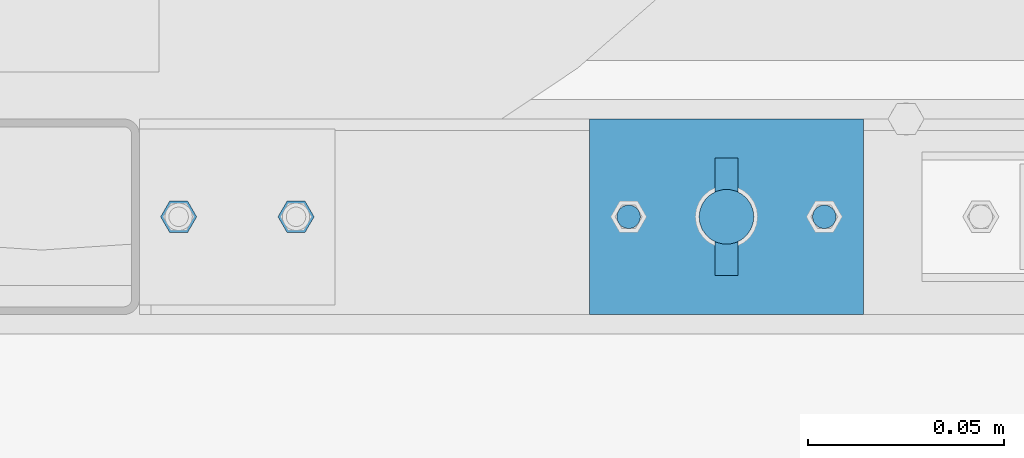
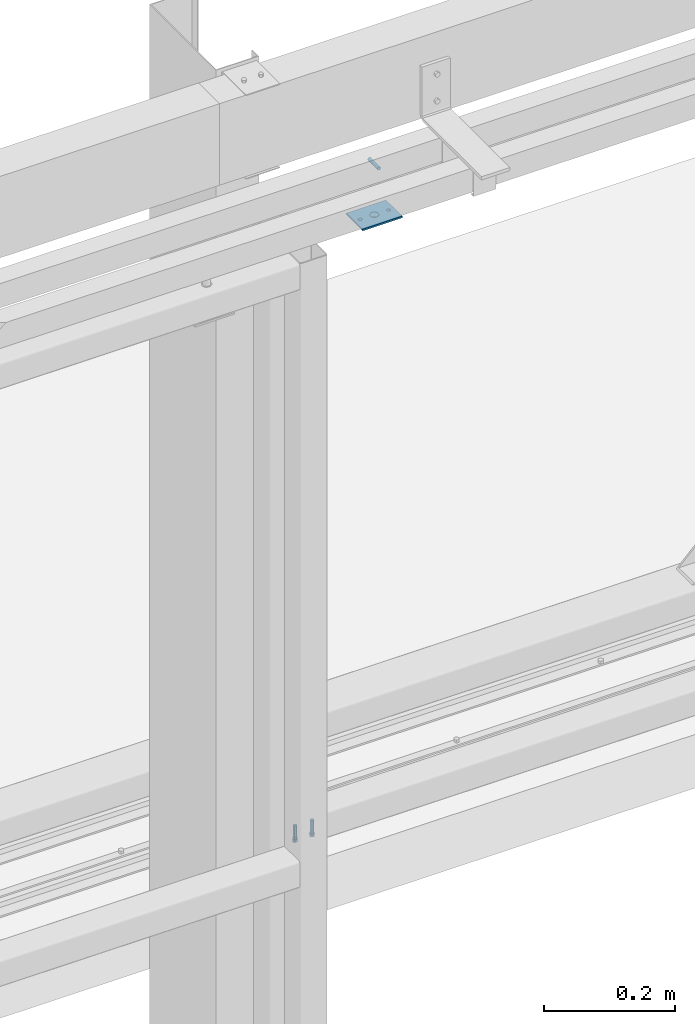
# One storey, part 46 of 91: 4 mechanical fasteners, 2 discrete accessories, 2 elements without a shape of their own.
"""IFC2X3 building model written with IfcOpenShell, lengths in millimetres."""

import ifcopenshell
import ifcopenshell.guid

model = None  # the IFC model being written
_history = None  # IfcOwnerHistory: only IFC2X3 demands one
_inside = {}  # id of a spatial element -> (the spatial element, [elements in it])
_under = {}  # id of a project, library or spatial element -> (it, [spatial elements below it])
_declared = {}  # id of a project -> (the project, [libraries it declares])
_typed = {}  # id of a type object -> (the type object, [elements of that type])
_made_of = {}  # id of a material, layer set ... -> (it, [elements and type objects made of it])


def new_model(schema):
    """Start an empty IFC model of exactly this schema.

    Asked for "IFC4X3", IfcOpenShell would pick the latest addendum, in which some entities
    have other attributes; the version numbers below select the first issue.
    IFC2X3 requires an IfcOwnerHistory on every rooted entity: one is made here for all.
    """
    global model, _history
    if schema == "IFC4X3":
        model = ifcopenshell.file(schema_version=(4, 3, 0, 0))
    else:
        model = ifcopenshell.file(schema=schema)
    _inside.clear()
    _under.clear()
    _declared.clear()
    _typed.clear()
    _made_of.clear()
    _history = None
    if model.schema == "IFC2X3":
        org = make("IfcOrganization", Name="unknown")
        user = make(
            "IfcPersonAndOrganization",
            ThePerson=make("IfcPerson", FamilyName="unknown"),
            TheOrganization=org,
        )
        app = make(
            "IfcApplication",
            ApplicationDeveloper=org,
            Version="unknown",
            ApplicationFullName="unknown",
            ApplicationIdentifier="unknown",
        )
        _history = make(
            "IfcOwnerHistory",
            OwningUser=user,
            OwningApplication=app,
            ChangeAction="ADDED",
            CreationDate=0,
        )
    return model


def make(cls, **values):
    """One entity of the class cls with the attributes given. An attribute that is None is left unset."""
    return model.create_entity(
        cls, **{name: value for name, value in values.items() if value is not None}
    )


def rooted(cls, **values):
    """An entity with a GlobalId (a new one), such as an element, a storey or a relation."""
    return make(cls, GlobalId=ifcopenshell.guid.new(), OwnerHistory=_history, **values)


def si_unit(unit_type, name, prefix=None):
    """IfcSIUnit, for example si_unit("LENGTHUNIT", "METRE", prefix="MILLI")."""
    return make("IfcSIUnit", UnitType=unit_type, Prefix=prefix, Name=name)


def assignment(units):
    """IfcUnitAssignment: the units of a project."""
    return None if units is None else make("IfcUnitAssignment", Units=units)


def point(xyz):
    """IfcCartesianPoint."""
    return None if xyz is None else make("IfcCartesianPoint", Coordinates=xyz)


def direction(xyz):
    """IfcDirection."""
    return None if xyz is None else make("IfcDirection", DirectionRatios=xyz)


def frame(location, z_axis=None, x_axis=None):
    """IfcAxis2Placement3D, a coordinate frame: its origin and axes. An axis left out is left unset."""
    return make(
        "IfcAxis2Placement3D",
        Location=point(location),
        Axis=direction(z_axis),
        RefDirection=direction(x_axis),
    )


def frame_2d(location, x_axis=None):
    """IfcAxis2Placement2D, a coordinate frame in the plane: its origin and x axis."""
    return make(
        "IfcAxis2Placement2D", Location=point(location), RefDirection=direction(x_axis)
    )


def origin_with_axes():
    """The frame at (0, 0, 0) with the z axis (0, 0, 1) and the x axis (1, 0, 0) written out."""
    return frame((0.0, 0.0, 0.0), z_axis=(0.0, 0.0, 1.0), x_axis=(1.0, 0.0, 0.0))


def origin_2d_with_axis():
    """The frame at (0, 0) in the plane with the x axis (1, 0) written out."""
    return frame_2d((0.0, 0.0), x_axis=(1.0, 0.0))


def place(relative_to, where):
    """IfcLocalPlacement: puts the frame where relative to a parent placement (None: the world)."""
    return make(
        "IfcLocalPlacement", PlacementRelTo=relative_to, RelativePlacement=where
    )


def context(
    kind, dimensions, precision=None, world=None, true_north=None, identifier=None
):
    """IfcGeometricRepresentationContext, for example the 3D "Model" context."""
    return make(
        "IfcGeometricRepresentationContext",
        ContextIdentifier=identifier,
        ContextType=kind,
        CoordinateSpaceDimension=dimensions,
        Precision=precision,
        WorldCoordinateSystem=world,
        TrueNorth=true_north,
    )


def subcontext(parent, identifier, kind, view, scale=None):
    """IfcGeometricRepresentationSubContext, for example "Body" below "Model"."""
    return make(
        "IfcGeometricRepresentationSubContext",
        ContextIdentifier=identifier,
        ContextType=kind,
        ParentContext=parent,
        TargetScale=scale,
        TargetView=view,
    )


def project(units=None, contexts=None):
    """IfcProject with its units and contexts."""
    return rooted(
        "IfcProject",
        Name="project",
        RepresentationContexts=contexts,
        UnitsInContext=assignment(units),
    )


def spatial(cls, under=None, at=None, **own):
    """A site, building, storey or space (cls), placed at a placement, below another one or the project."""
    s = rooted(cls, ObjectPlacement=at, **own)
    if under is not None:
        _under.setdefault(under.id(), (under, []))[1].append(s)
    return s


def polyline(points):
    """IfcPolyline through the points."""
    return make("IfcPolyline", Points=[point(p) for p in points])


def profile(cls, at=None, kind="AREA", **sizes):
    """A parametric profile (cls). Its sizes go by their IFC names, for example OverallWidth=200.0."""
    return make(cls, ProfileType=kind, Position=at, **sizes)


def circle(**sizes):
    """IfcCircleProfileDef."""
    return profile("IfcCircleProfileDef", **sizes)


def outline(outer, holes=None, kind="AREA"):
    """IfcArbitraryClosedProfileDef: a profile drawn as a closed curve; with holes, ...WithVoids."""
    if holes is None:
        return make("IfcArbitraryClosedProfileDef", ProfileType=kind, OuterCurve=outer)
    return make(
        "IfcArbitraryProfileDefWithVoids",
        ProfileType=kind,
        OuterCurve=outer,
        InnerCurves=holes,
    )


def extrude(swept, where, along, depth):
    """IfcExtrudedAreaSolid: the profile swept, set in the frame where, extruded along a direction by depth."""
    return make(
        "IfcExtrudedAreaSolid",
        SweptArea=swept,
        Position=where,
        ExtrudedDirection=direction(along),
        Depth=depth,
    )


def shape(context_of_items, identifier, shape_type, items):
    """IfcShapeRepresentation: the items that make up one representation, for example the "Body"."""
    return make(
        "IfcShapeRepresentation",
        ContextOfItems=context_of_items,
        RepresentationIdentifier=identifier,
        RepresentationType=shape_type,
        Items=items,
    )


def source(mapping_origin, context_of_items, identifier, shape_type, items):
    """IfcRepresentationMap: a shape defined once, which mapped items show again and again."""
    return make(
        "IfcRepresentationMap",
        MappingOrigin=mapping_origin,
        MappedRepresentation=shape(context_of_items, identifier, shape_type, items),
    )


def transform(
    local_origin,
    x_axis=None,
    y_axis=None,
    z_axis=None,
    scale=None,
    scale2=None,
    scale3=None,
    uniform=True,
):
    """IfcCartesianTransformationOperator3D, or its non-uniform kind. x_axis, y_axis, z_axis: its Axis1, 2, 3."""
    if uniform:
        return make(
            "IfcCartesianTransformationOperator3D",
            Axis1=direction(x_axis),
            Axis2=direction(y_axis),
            LocalOrigin=point(local_origin),
            Scale=scale,
            Axis3=direction(z_axis),
        )
    return make(
        "IfcCartesianTransformationOperator3DnonUniform",
        Axis1=direction(x_axis),
        Axis2=direction(y_axis),
        LocalOrigin=point(local_origin),
        Scale=scale,
        Axis3=direction(z_axis),
        Scale2=scale2,
        Scale3=scale3,
    )


def mapped(mapping_source, mapping_target):
    """IfcMappedItem: shows the shape of a source again, moved by a transform."""
    return make(
        "IfcMappedItem", MappingSource=mapping_source, MappingTarget=mapping_target
    )


def material(Name=None, Category=None):
    """IfcMaterial."""
    return make("IfcMaterial", Name=Name, Category=Category)


def made_of(thing, what):
    """Note that an element or type object is made of a material, layer set ...; save() writes the relation."""
    if what is not None:
        _made_of.setdefault(what.id(), (what, []))[1].append(thing)
    return thing


def type_object(cls, material=None, **own):
    """A type object (cls), such as IfcWallType, which elements share."""
    return made_of(rooted(cls, **own), material)


def element(
    cls,
    number,
    at=None,
    inside=None,
    cuts=None,
    type_object=None,
    material=None,
    context=None,
    identifier="Body",
    shape_type=None,
    held_by="IfcProductDefinitionShape",
    body=None,
    shapes=None,
    **own,
):
    """One element of the class cls, such as IfcWall. Its Tag is "e" and its number.

    at: its placement. inside: the storey or other place that contains it. cuts: it is an
    opening in that element (IfcRelVoidsElement). A single representation is given by context,
    identifier, shape_type and body (its items); several are given by shapes. held_by: the class
    of the entity that holds the representations. save() writes the other relations.
    """
    e = rooted(cls, Tag="e%d" % number, ObjectPlacement=at, **own)
    if body is not None:
        shapes = [shape(context, identifier, shape_type, body)]
    if shapes is not None:
        e.Representation = make(held_by, Representations=shapes)
    if inside is not None:
        _inside.setdefault(inside.id(), (inside, []))[1].append(e)
    if cuts is not None:
        rooted(
            "IfcRelVoidsElement", RelatingBuildingElement=cuts, RelatedOpeningElement=e
        )
    if type_object is not None:
        _typed.setdefault(type_object.id(), (type_object, []))[1].append(e)
    return made_of(e, material)


def aggregate(whole, parts):
    """IfcRelAggregates: a whole, such as a stair, and the parts it consists of."""
    return rooted("IfcRelAggregates", RelatingObject=whole, RelatedObjects=parts)


def save(model, path):
    """Write the relations noted so far, then the file.

    IfcRelAggregates (storeys below a building ...), IfcRelContainedInSpatialStructure (elements
    in a storey), IfcRelDefinesByType, IfcRelAssociatesMaterial and IfcRelDeclares: one each for
    every whole, place, type object, material and project.
    """
    for whole, parts in _under.values():
        aggregate(whole, parts)
    for where, things in _inside.values():
        rooted(
            "IfcRelContainedInSpatialStructure",
            RelatedElements=things,
            RelatingStructure=where,
        )
    for kind, things in _typed.values():
        rooted("IfcRelDefinesByType", RelatedObjects=things, RelatingType=kind)
    for what, things in _made_of.values():
        rooted("IfcRelAssociatesMaterial", RelatedObjects=things, RelatingMaterial=what)
    for by, libraries in _declared.values():
        rooted("IfcRelDeclares", RelatingContext=by, RelatedDefinitions=libraries)
    model.write(path)


model = new_model("IFC2X3")

# Units and contexts
model_context = context("Model", 3, precision=1e-05, world=origin_with_axes())
body_context = subcontext(model_context, "Body", "Model", "MODEL_VIEW")
ifc_project = project(units=[si_unit("LENGTHUNIT", "METRE", prefix="MILLI"), si_unit("AREAUNIT", "SQUARE_METRE"), si_unit("VOLUMEUNIT", "CUBIC_METRE"), si_unit("MASSUNIT", "GRAM", prefix="KILO"), si_unit("TIMEUNIT", "SECOND"), si_unit("PLANEANGLEUNIT", "RADIAN"), si_unit("SOLIDANGLEUNIT", "STERADIAN"), si_unit("THERMODYNAMICTEMPERATUREUNIT", "DEGREE_CELSIUS"), si_unit("LUMINOUSINTENSITYUNIT", "LUMEN")], contexts=[model_context])

# Site, building, storey
site_placement = place(None, origin_with_axes())
site = spatial("IfcSite", under=ifc_project, at=site_placement, Name="Undefined", CompositionType="ELEMENT")
building_placement = place(site_placement, origin_with_axes())
building = spatial("IfcBuilding", under=site, at=building_placement, Name="Undefined", CompositionType="ELEMENT")
storey_placement = place(building_placement, origin_with_axes())
storey = spatial("IfcBuildingStorey", under=building, at=storey_placement, Name="Undefined", CompositionType="ELEMENT", Elevation=0.0)

# Assembly, discrete accessories, mechanical fasteners
assembly_1_placement = place(storey_placement, origin_with_axes())
assembly_1 = element("IfcElementAssembly", 1, at=assembly_1_placement, inside=storey, Name="ROD", AssemblyPlace="NOTDEFINED", PredefinedType="RIGID_FRAME")
ifc_material_1 = material(Name="STEEL/250")
discrete_accessory_type_1 = type_object("IfcDiscreteAccessoryType", Name="PLATE")
discrete_accessory_1_placement = place(assembly_1_placement, frame((-110580.84, 84737.15, 3324.5), z_axis=(0.0, 0.0, 1.0), x_axis=(0.0, -1.0, 0.0)))
discrete_accessory_1 = element("IfcDiscreteAccessory", 2, at=discrete_accessory_1_placement, type_object=discrete_accessory_type_1, material=ifc_material_1, Name="PLATE", ObjectType="PLT3*50", context=body_context, shape_type="SweptSolid", body=[
    extrude(outline(polyline([(0.0, 0.0), (50.0, 0.0), (50.0, 70.0), (0.0, 70.0), (0.0, 0.0)])), frame((0.0, 0.0, -1.5), z_axis=(0.0, 0.0, 1.0), x_axis=(1.0, 0.0, 0.0)), (0.0, 0.0, 1.0), 3.0),
])
ifc_material_2 = material(Name="8.8S")
discrete_accessory_type_2 = type_object("IfcDiscreteAccessoryType", Name="Bolt assembly")
shared_shape_1 = source(origin_with_axes(), body_context, "Body", "SweptSolid", [
    extrude(circle(Radius=3.0, at=origin_2d_with_axis()), frame((0.0, -1.0, 0.0), z_axis=(0.0, 1.0, 0.0), x_axis=(1.0, 0.0, 0.0)), (0.0, 0.0, 1.0), 3.1),
])
mechanical_fastener_1_placement = place(assembly_1_placement, frame((-110520.84, 84712.15, 3324.0), z_axis=(0.0, 1.0, 0.0), x_axis=(-1.0, 0.0, 0.0)))
mechanical_fastener_1 = element("IfcMechanicalFastener", 3, at=mechanical_fastener_1_placement, type_object=discrete_accessory_type_2, material=ifc_material_2, Name="Bolt assembly", NominalDiameter=6.0, NominalLength=3.0, context=body_context, shape_type="MappedRepresentation", body=[
    mapped(shared_shape_1, transform((0.0, 0.0, 0.0))),
])
mechanical_fastener_2_placement = place(assembly_1_placement, frame((-110570.84, 84712.15, 3324.0), z_axis=(0.0, -1.0, 0.0), x_axis=(1.0, 0.0, 0.0)))
mechanical_fastener_2 = element("IfcMechanicalFastener", 4, at=mechanical_fastener_2_placement, type_object=discrete_accessory_type_2, material=ifc_material_2, Name="Bolt assembly", NominalDiameter=6.0, NominalLength=3.0, context=body_context, shape_type="MappedRepresentation", body=[
    mapped(shared_shape_1, transform((0.0, 0.0, 0.0))),
])
shared_shape_2 = source(origin_with_axes(), body_context, "Body", "SweptSolid", [
    extrude(circle(Radius=7.0, at=origin_2d_with_axis()), frame((0.0, -1.0, 0.0), z_axis=(0.0, 1.0, 0.0), x_axis=(1.0, 0.0, 0.0)), (0.0, 0.0, 1.0), 3.1),
])
mechanical_fastener_3_placement = place(assembly_1_placement, frame((-110545.84, 84712.15, 3324.0), z_axis=(0.0, -1.0, 0.0), x_axis=(1.0, 0.0, 0.0)))
mechanical_fastener_3 = element("IfcMechanicalFastener", 5, at=mechanical_fastener_3_placement, type_object=discrete_accessory_type_2, material=ifc_material_2, Name="Bolt assembly", NominalDiameter=12.0, NominalLength=3.0, context=body_context, shape_type="MappedRepresentation", body=[
    mapped(shared_shape_2, transform((0.0, 0.0, 0.0))),
])
discrete_accessory_type_3 = type_object("IfcDiscreteAccessoryType", Name="SPRING PIN")
discrete_accessory_2_placement = place(assembly_1_placement, frame((-110545.84, 84697.15, 3421.0), z_axis=(1.0, 0.0, 0.0), x_axis=(0.0, 1.0, 0.0)))
discrete_accessory_2 = element("IfcDiscreteAccessory", 6, at=discrete_accessory_2_placement, type_object=discrete_accessory_type_3, material=ifc_material_1, Name="SPRING PIN", ObjectType="D6", context=body_context, shape_type="SweptSolid", body=[
    extrude(circle(Radius=3.0, at=origin_2d_with_axis()), frame((30.0, 0.0, 0.0), z_axis=(-1.0, 0.0, 0.0), x_axis=(0.0, -1.0, 0.0)), (0.0, 0.0, 1.0), 30.0),
])
aggregate(assembly_1, [mechanical_fastener_1, mechanical_fastener_2, mechanical_fastener_3, discrete_accessory_2, discrete_accessory_1])

# Assembly, mechanical fastener
assembly_2_placement = place(storey_placement, origin_with_axes())
assembly_2 = element("IfcElementAssembly", 7, at=assembly_2_placement, inside=storey, Name="SLIDING DOOR", AssemblyPlace="NOTDEFINED", PredefinedType="RIGID_FRAME")
ifc_material_3 = material(Name="TEK_11TPIM")
shared_shape_3 = source(origin_with_axes(), body_context, "Body", "SweptSolid", [
    extrude(circle(Radius=3.0, at=origin_2d_with_axis()), frame((0.0, 0.103333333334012, 0.0), z_axis=(0.0, 1.0, 0.0), x_axis=(1.0, 0.0, 0.0)), (0.0, 0.0, 1.0), 2.0),
    extrude(circle(Radius=3.0, at=origin_2d_with_axis()), frame((0.0, 2.4, 0.0), z_axis=(0.0, 1.0, 0.0), x_axis=(1.0, 0.0, 0.0)), (0.0, 0.0, 1.0), 1.7),
    extrude(outline(polyline([(4.61880215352, 0.0), (2.30940107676, 4.00000000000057), (-2.30940107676, 4.00000000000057), (-4.61880215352, 0.0), (-2.30940107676, -4.00000000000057), (2.30940107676, -4.00000000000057), (4.61880215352, 0.0)])), frame((0.0, -4.99666666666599, 0.0), z_axis=(0.0, 1.0, 0.0), x_axis=(1.0, 0.0, 0.0)), (0.0, 0.0, 1.0), 5.0),
    extrude(circle(Radius=3.0, at=origin_2d_with_axis()), frame((0.0, 0.0033333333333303, 0.0), z_axis=(0.0, 1.0, 0.0), x_axis=(1.0, 0.0, 0.0)), (0.0, 0.0, 1.0), 25.0),
    extrude(circle(Radius=3.0, at=origin_2d_with_axis()), frame((0.0, 4.10000002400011, 0.0), z_axis=(0.0, 1.0, 0.0), x_axis=(1.0, 0.0, 0.0)), (0.0, 0.0, 1.0), 0.1),
    extrude(outline(polyline([(3.46410161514, 0.0), (1.73205080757, 3.00000000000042), (-1.73205080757, 3.00000000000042), (-3.46410161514, 0.0), (-1.73205080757, -3.00000000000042), (1.73205080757, -3.00000000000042), (3.46410161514, 0.0)])), frame((0.0, 4.20000002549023, 0.0), z_axis=(0.0, 1.0, 0.0), x_axis=(1.0, 0.0, 0.0)), (0.0, 0.0, 1.0), 0.1),
])
mechanical_fastener_4_placement = place(assembly_2_placement, frame((-110685.84, 84712.15, 2211.66), z_axis=(0.0, -1.0, 0.0), x_axis=(1.0, 0.0, 0.0)))
mechanical_fastener_4 = element("IfcMechanicalFastener", 8, at=mechanical_fastener_4_placement, type_object=discrete_accessory_type_2, material=ifc_material_3, Name="Bolt assembly", NominalDiameter=6.0, NominalLength=25.0, context=body_context, shape_type="MappedRepresentation", body=[
    mapped(shared_shape_3, transform((0.0, 0.0, 0.0))),
    mapped(shared_shape_3, transform((30.0, 0.0, 0.0))),
])
aggregate(assembly_2, [mechanical_fastener_4])

save(model, "model.ifc")
